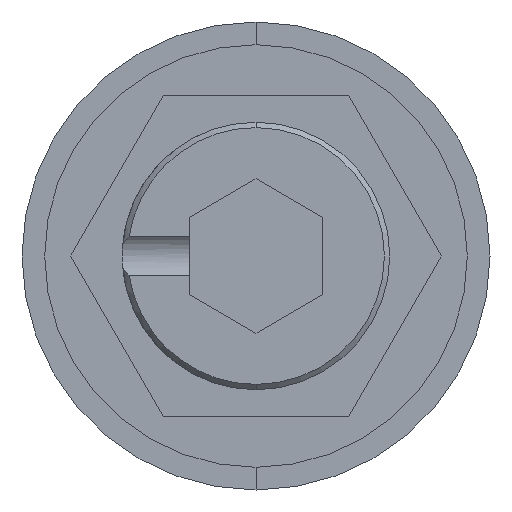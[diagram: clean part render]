
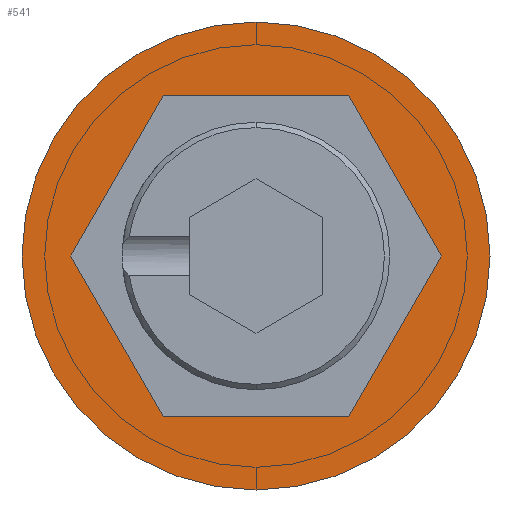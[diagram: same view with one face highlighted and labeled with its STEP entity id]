
A CAD part, front view. The second image highlights one B-rep face of the part: STEP entity #541.
In plain terms, the highlighted planar face has unit normal (0, -1, 0).
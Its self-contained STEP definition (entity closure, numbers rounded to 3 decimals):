
#34 = FACE_OUTER_BOUND ( 'NONE', #301, .T. ) ;
#57 = VECTOR ( 'NONE', #926, 1000. ) ;
#107 = ORIENTED_EDGE ( 'NONE', *, *, #1230, .F. ) ;
#156 = CARTESIAN_POINT ( 'NONE',  ( 6.928, 0., 0. ) ) ;
#284 = EDGE_CURVE ( 'NONE', #1311, #671, #338, .T. ) ;
#301 = EDGE_LOOP ( 'NONE', ( #667, #479 ) ) ;
#335 = CARTESIAN_POINT ( 'NONE',  ( 0., 0., -8.75 ) ) ;
#338 = LINE ( 'NONE', #1117, #684 ) ;
#473 = VERTEX_POINT ( 'NONE', #804 ) ;
#479 = ORIENTED_EDGE ( 'NONE', *, *, #2060, .T. ) ;
#517 = ORIENTED_EDGE ( 'NONE', *, *, #1583, .F. ) ;
#518 = LINE ( 'NONE', #1437, #57 ) ;
#519 = CARTESIAN_POINT ( 'NONE',  ( 0., 0., 8.75 ) ) ;
#520 = CARTESIAN_POINT ( 'NONE',  ( -3.464, 0., 6. ) ) ;
#522 = AXIS2_PLACEMENT_3D ( 'NONE', #1725, #705, #1887 ) ;
#541 = ADVANCED_FACE ( 'NONE', ( #829, #34 ), #2110, .T. ) ;
#597 = CARTESIAN_POINT ( 'NONE',  ( 0., 0., 0. ) ) ;
#667 = ORIENTED_EDGE ( 'NONE', *, *, #2116, .T. ) ;
#671 = VERTEX_POINT ( 'NONE', #1588 ) ;
#684 = VECTOR ( 'NONE', #1072, 1000. ) ;
#700 = EDGE_CURVE ( 'NONE', #1868, #473, #518, .T. ) ;
#705 = DIRECTION ( 'NONE',  ( 0., -1., 0. ) ) ;
#740 = CARTESIAN_POINT ( 'NONE',  ( 0., 0., 0. ) ) ;
#764 = VECTOR ( 'NONE', #1709, 1000. ) ;
#769 = DIRECTION ( 'NONE',  ( 0., -1., 0. ) ) ;
#798 = CARTESIAN_POINT ( 'NONE',  ( 3.464, 0., -6. ) ) ;
#799 = CIRCLE ( 'NONE', #522, 8.75 ) ;
#802 = DIRECTION ( 'NONE',  ( -0.5, 0., 0.866 ) ) ;
#804 = CARTESIAN_POINT ( 'NONE',  ( -3.464, 0., 6. ) ) ;
#829 = FACE_BOUND ( 'NONE', #1774, .T. ) ;
#881 = VERTEX_POINT ( 'NONE', #519 ) ;
#906 = DIRECTION ( 'NONE',  ( 0., 0., -1. ) ) ;
#926 = DIRECTION ( 'NONE',  ( -1., 0., 0. ) ) ;
#937 = DIRECTION ( 'NONE',  ( 0., 0., -1. ) ) ;
#939 = VERTEX_POINT ( 'NONE', #335 ) ;
#970 = LINE ( 'NONE', #1735, #1432 ) ;
#1049 = EDGE_CURVE ( 'NONE', #1783, #1947, #1996, .T. ) ;
#1072 = DIRECTION ( 'NONE',  ( 0.5, 0., -0.866 ) ) ;
#1091 = AXIS2_PLACEMENT_3D ( 'NONE', #740, #1916, #906 ) ;
#1117 = CARTESIAN_POINT ( 'NONE',  ( -6.928, 0., 0. ) ) ;
#1230 = EDGE_CURVE ( 'NONE', #473, #1311, #1660, .T. ) ;
#1311 = VERTEX_POINT ( 'NONE', #1909 ) ;
#1317 = CARTESIAN_POINT ( 'NONE',  ( 6.928, 0., 0. ) ) ;
#1390 = ORIENTED_EDGE ( 'NONE', *, *, #1049, .F. ) ;
#1432 = VECTOR ( 'NONE', #2064, 1000. ) ;
#1437 = CARTESIAN_POINT ( 'NONE',  ( 3.464, 0., 6. ) ) ;
#1482 = ORIENTED_EDGE ( 'NONE', *, *, #700, .F. ) ;
#1559 = DIRECTION ( 'NONE',  ( 0.5, 0., 0.866 ) ) ;
#1579 = VECTOR ( 'NONE', #802, 1000. ) ;
#1583 = EDGE_CURVE ( 'NONE', #671, #1783, #970, .T. ) ;
#1588 = CARTESIAN_POINT ( 'NONE',  ( -3.464, 0., -6. ) ) ;
#1660 = LINE ( 'NONE', #520, #764 ) ;
#1709 = DIRECTION ( 'NONE',  ( -0.5, 0., -0.866 ) ) ;
#1725 = CARTESIAN_POINT ( 'NONE',  ( 0., 0., 0. ) ) ;
#1735 = CARTESIAN_POINT ( 'NONE',  ( -3.464, 0., -6. ) ) ;
#1774 = EDGE_LOOP ( 'NONE', ( #517, #2122, #107, #1482, #1797, #1390 ) ) ;
#1783 = VERTEX_POINT ( 'NONE', #798 ) ;
#1797 = ORIENTED_EDGE ( 'NONE', *, *, #1831, .F. ) ;
#1831 = EDGE_CURVE ( 'NONE', #1947, #1868, #2013, .T. ) ;
#1837 = CARTESIAN_POINT ( 'NONE',  ( 3.464, 0., 6. ) ) ;
#1868 = VERTEX_POINT ( 'NONE', #1837 ) ;
#1887 = DIRECTION ( 'NONE',  ( 0., 0., -1. ) ) ;
#1909 = CARTESIAN_POINT ( 'NONE',  ( -6.928, 0., 0. ) ) ;
#1916 = DIRECTION ( 'NONE',  ( 0., -1., 0. ) ) ;
#1947 = VERTEX_POINT ( 'NONE', #156 ) ;
#1964 = AXIS2_PLACEMENT_3D ( 'NONE', #597, #769, #937 ) ;
#1996 = LINE ( 'NONE', #2057, #2059 ) ;
#2013 = LINE ( 'NONE', #1317, #1579 ) ;
#2040 = CIRCLE ( 'NONE', #1091, 8.75 ) ;
#2057 = CARTESIAN_POINT ( 'NONE',  ( 3.464, 0., -6. ) ) ;
#2059 = VECTOR ( 'NONE', #1559, 1000. ) ;
#2060 = EDGE_CURVE ( 'NONE', #881, #939, #799, .T. ) ;
#2064 = DIRECTION ( 'NONE',  ( 1., 0., 0. ) ) ;
#2110 = PLANE ( 'NONE',  #1964 ) ;
#2116 = EDGE_CURVE ( 'NONE', #939, #881, #2040, .T. ) ;
#2122 = ORIENTED_EDGE ( 'NONE', *, *, #284, .F. ) ;
